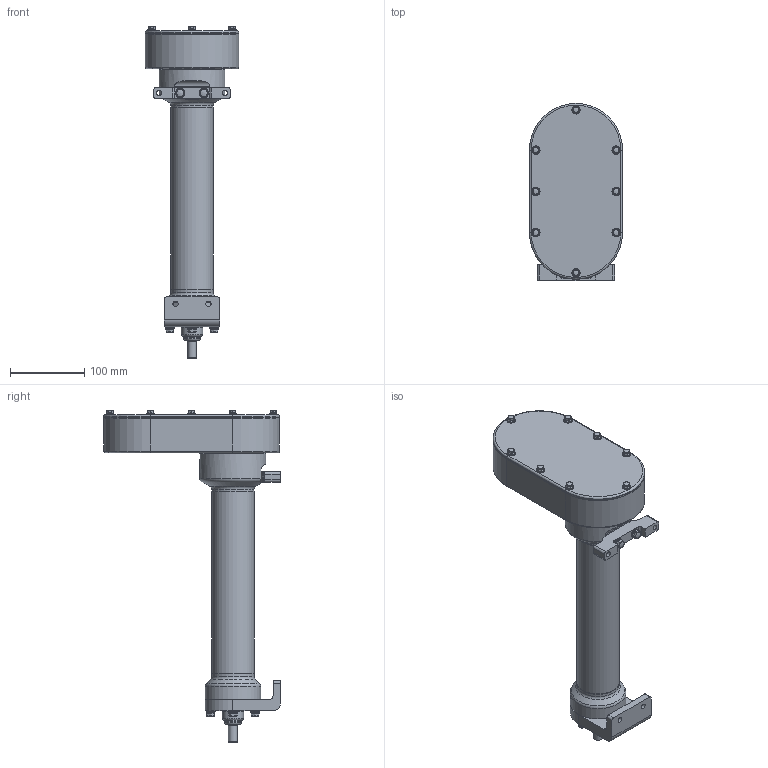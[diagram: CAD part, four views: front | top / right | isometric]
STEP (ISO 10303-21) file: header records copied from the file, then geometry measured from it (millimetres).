
FILE_DESCRIPTION (( 'STEP AP203' ), '1' );
FILE_NAME ('RSH22_BNM10_SM175.000_RS-472616-1.step', '2024-10-21T02:55:38', ( '' ), ( '' ), 'SwSTEP 2.0', 'SolidWorks 2024', '' );
FILE_SCHEMA (( 'CONFIG_CONTROL_DESIGN' ));
Products named in the file (5): tempJoin0_21229035_RSH22_BNM10_SM175.000_RS-472616-1; RSH22_BNM10_SM175.000_RS-472616-1; tempJoin0_21229008_RSH22_BNM10_SM175.000_RS-472616-1; Base_RSH22_BNM10_SM175.000_RS-472616-1; tempJoin0_21229021_RSH22_BNM10_SM175.000_RS-472616-1
Assembly tree (4 placements, depth 2):
  RSH22_BNM10_SM175.000_RS-472616-1
    tempJoin0_21229008_RSH22_BNM10_SM175.000_RS-472616-1
    tempJoin0_21229021_RSH22_BNM10_SM175.000_RS-472616-1
    tempJoin0_21229035_RSH22_BNM10_SM175.000_RS-472616-1
    Base_RSH22_BNM10_SM175.000_RS-472616-1
Bounding box: 125.73 x 238.32 x 447.84 mm (x, y, z)
Volume: 1790781.1 mm3; surface area: 433859.9 mm2
Topology: 5 solids, 46 shells, 3318 faces, 8505 edges, 5349 vertices
Faces by surface type: cylinder 1339, plane 913, bspline 648, torus 224, cone 179, sphere 15
Full cylindrical faces by diameter (mm): 3.242 x11, 4.2 x17, 4.254 x7, 4.5 x4, 5 x24, 5.41 x8, 5.5 x8, 5.7 x8, 6 x6, 6.35 x5, 6.477 x2, 6.756 x6, 6.8 x4, 7.01 x7, 7.137 x4, 7.62 x1, 7.949 x9, 8 x13, 8.449 x6, 8.5 x14, 9 x1, 10 x9, 10.8 x1, 11 x8, 11.113 x2, 11.125 x1, 11.189 x1, 11.85 x1, 11.9 x6, 12 x1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
Entity records: 121191 total; most frequent: CARTESIAN_POINT 45199, ORIENTED_EDGE 15722, DIRECTION 15412, EDGE_CURVE 7861, AXIS2_PLACEMENT_3D 6230, VERTEX_POINT 5185, EDGE_LOOP 4086, FACE_OUTER_BOUND 3679
